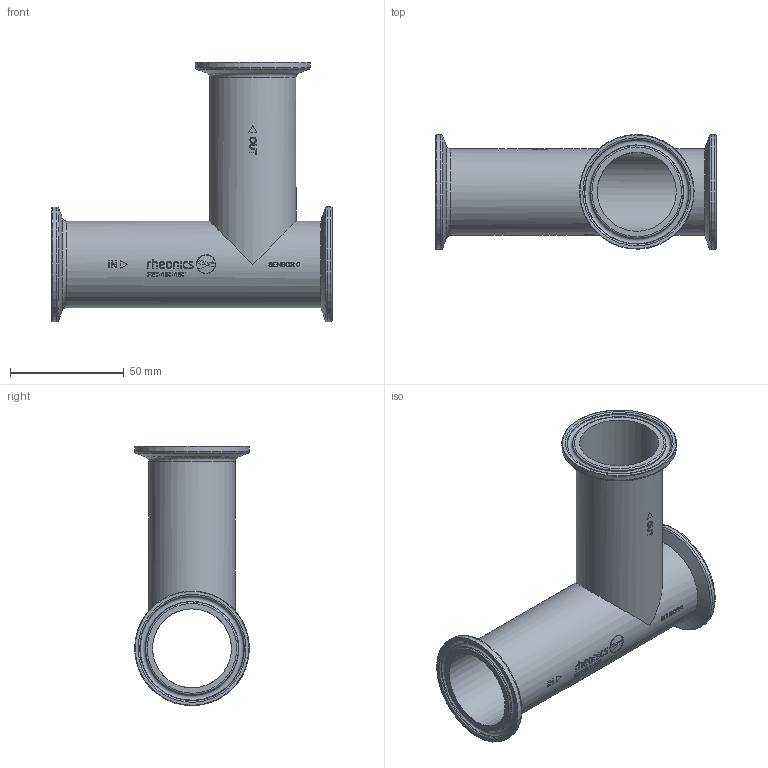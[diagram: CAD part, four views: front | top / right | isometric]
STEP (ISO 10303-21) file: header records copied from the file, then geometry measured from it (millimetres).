
FILE_DESCRIPTION(/* description */ ('Unknown'),/* implementation_level */ '2;1');
FILE_NAME(/* name */ 'FET-15T-15T',/* time_stamp */ '2024-08-09T16:21:59-05:00',/* author */ ('Unknown'),/* organization */ ('Unknown'),/* preprocessor_version */ 'ST-DEVELOPER v16.7',/* originating_system */ 'Solid Edge',/* authorisation */ 'Unknown');
FILE_SCHEMA (('AUTOMOTIVE_DESIGN {1 0 10303 214 3 1 1}'));
Length unit declared in the file: millimetre
Products named in the file (1): FET-15T-15T
Bounding box: 123.5 x 50.5 x 114.2 mm (x, y, z)
Volume: 44506.8 mm3; surface area: 49186 mm2
Topology: 1 solids, 1 shells, 652 faces, 1671 edges, 1108 vertices
Faces by surface type: plane 290, bspline 233, cylinder 103, torus 17, cone 9
Full cylindrical faces by diameter (mm): 34.8 x2, 38.1 x2, 50.5 x3
Entity records: 38926 total; most frequent: CARTESIAN_POINT 20050, ORIENTED_EDGE 3240, DIRECTION 2293, EDGE_CURVE 1620, VERTEX_POINT 1100, EDGE_LOOP 786, FACE_BOUND 786, LINE 777
